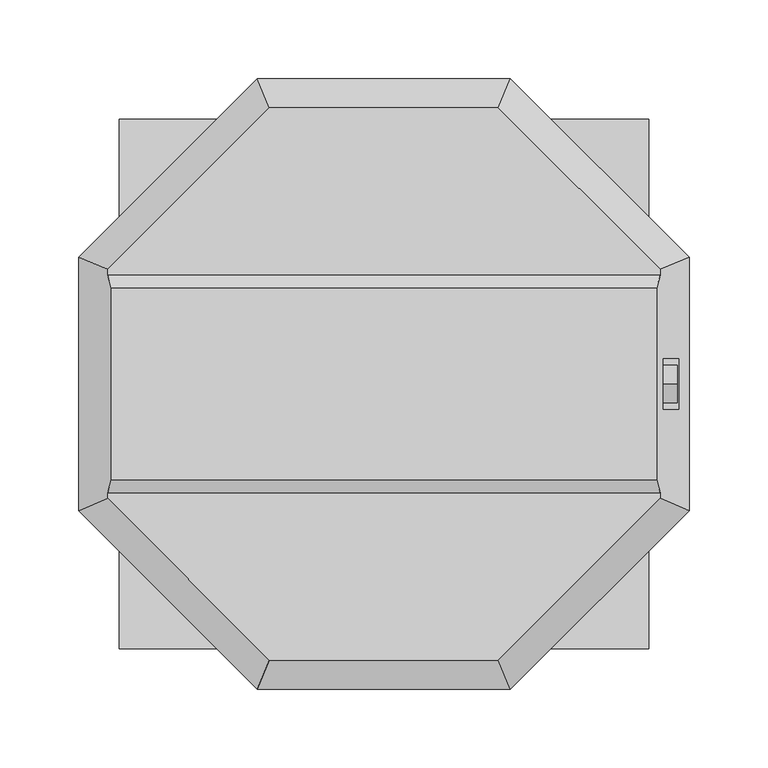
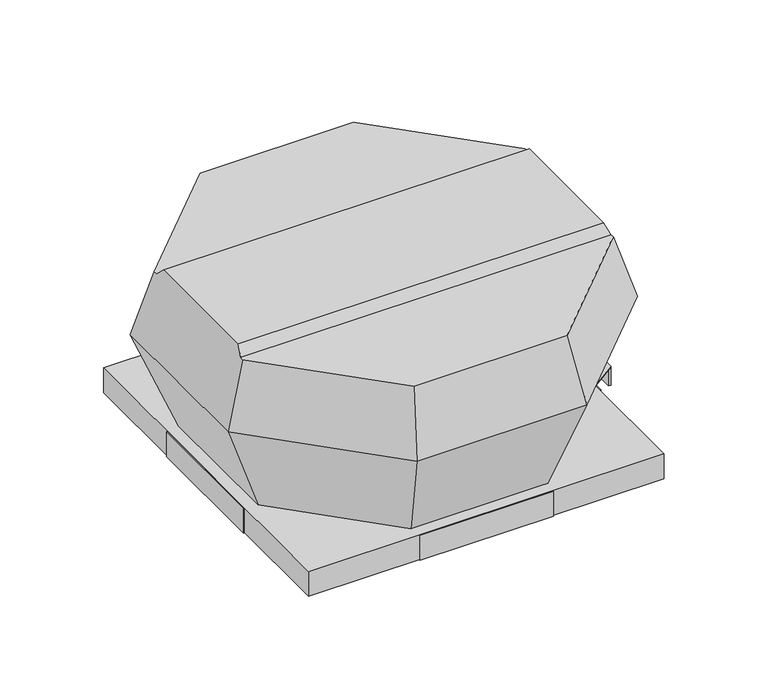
"""IFC4 building model written with IfcOpenShell, lengths in millimetres: unitary equipment geometry, VE-Wentylator-ParaForma-Harmann-VIVER_PS-Wywiewny : 4-250/600S."""

import ifcopenshell
import ifcopenshell.guid

model = None  # the IFC model being written
_history = None  # IfcOwnerHistory: only IFC2X3 demands one
_inside = {}  # id of a spatial element -> (the spatial element, [elements in it])
_under = {}  # id of a project, library or spatial element -> (it, [spatial elements below it])
_declared = {}  # id of a project -> (the project, [libraries it declares])
_typed = {}  # id of a type object -> (the type object, [elements of that type])
_made_of = {}  # id of a material, layer set ... -> (it, [elements and type objects made of it])


def new_model(schema):
    """Start an empty IFC model of exactly this schema.

    Asked for "IFC4X3", IfcOpenShell would pick the latest addendum, in which some entities
    have other attributes; the version numbers below select the first issue.
    IFC2X3 requires an IfcOwnerHistory on every rooted entity: one is made here for all.
    """
    global model, _history
    if schema == "IFC4X3":
        model = ifcopenshell.file(schema_version=(4, 3, 0, 0))
    else:
        model = ifcopenshell.file(schema=schema)
    _inside.clear()
    _under.clear()
    _declared.clear()
    _typed.clear()
    _made_of.clear()
    _history = None
    if model.schema == "IFC2X3":
        org = make("IfcOrganization", Name="unknown")
        user = make(
            "IfcPersonAndOrganization",
            ThePerson=make("IfcPerson", FamilyName="unknown"),
            TheOrganization=org,
        )
        app = make(
            "IfcApplication",
            ApplicationDeveloper=org,
            Version="unknown",
            ApplicationFullName="unknown",
            ApplicationIdentifier="unknown",
        )
        _history = make(
            "IfcOwnerHistory",
            OwningUser=user,
            OwningApplication=app,
            ChangeAction="ADDED",
            CreationDate=0,
        )
    return model


def make(cls, **values):
    """One entity of the class cls with the attributes given. An attribute that is None is left unset."""
    return model.create_entity(
        cls, **{name: value for name, value in values.items() if value is not None}
    )


def rooted(cls, **values):
    """An entity with a GlobalId (a new one), such as an element, a storey or a relation."""
    return make(cls, GlobalId=ifcopenshell.guid.new(), OwnerHistory=_history, **values)


def si_unit(unit_type, name, prefix=None):
    """IfcSIUnit, for example si_unit("LENGTHUNIT", "METRE", prefix="MILLI")."""
    return make("IfcSIUnit", UnitType=unit_type, Prefix=prefix, Name=name)


def assignment(units):
    """IfcUnitAssignment: the units of a project."""
    return None if units is None else make("IfcUnitAssignment", Units=units)


def point(xyz):
    """IfcCartesianPoint."""
    return None if xyz is None else make("IfcCartesianPoint", Coordinates=xyz)


def direction(xyz):
    """IfcDirection."""
    return None if xyz is None else make("IfcDirection", DirectionRatios=xyz)


def frame(location, z_axis=None, x_axis=None):
    """IfcAxis2Placement3D, a coordinate frame: its origin and axes. An axis left out is left unset."""
    return make(
        "IfcAxis2Placement3D",
        Location=point(location),
        Axis=direction(z_axis),
        RefDirection=direction(x_axis),
    )


def frame_2d(location, x_axis=None):
    """IfcAxis2Placement2D, a coordinate frame in the plane: its origin and x axis."""
    return make(
        "IfcAxis2Placement2D", Location=point(location), RefDirection=direction(x_axis)
    )


def origin():
    """The frame at (0, 0, 0) with its axes left unset."""
    return frame((0.0, 0.0, 0.0))


def place(relative_to, where):
    """IfcLocalPlacement: puts the frame where relative to a parent placement (None: the world)."""
    return make(
        "IfcLocalPlacement", PlacementRelTo=relative_to, RelativePlacement=where
    )


def context(
    kind, dimensions, precision=None, world=None, true_north=None, identifier=None
):
    """IfcGeometricRepresentationContext, for example the 3D "Model" context."""
    return make(
        "IfcGeometricRepresentationContext",
        ContextIdentifier=identifier,
        ContextType=kind,
        CoordinateSpaceDimension=dimensions,
        Precision=precision,
        WorldCoordinateSystem=world,
        TrueNorth=true_north,
    )


def project(units=None, contexts=None):
    """IfcProject with its units and contexts."""
    return rooted(
        "IfcProject",
        Name="project",
        RepresentationContexts=contexts,
        UnitsInContext=assignment(units),
    )


def spatial(cls, under=None, at=None, **own):
    """A site, building, storey or space (cls), placed at a placement, below another one or the project."""
    s = rooted(cls, ObjectPlacement=at, **own)
    if under is not None:
        _under.setdefault(under.id(), (under, []))[1].append(s)
    return s


def circle_curve(where, radius):
    """IfcCircle in the frame where."""
    return make("IfcCircle", Position=where, Radius=radius)


def trimmed(basis, trim1, trim2, sense, master):
    """IfcTrimmedCurve: the piece of a basis curve between two trims."""
    return make(
        "IfcTrimmedCurve",
        BasisCurve=basis,
        Trim1=trim1,
        Trim2=trim2,
        SenseAgreement=sense,
        MasterRepresentation=master,
    )


def segment(curve, same_sense, transition):
    """IfcCompositeCurveSegment."""
    return make(
        "IfcCompositeCurveSegment",
        Transition=transition,
        SameSense=same_sense,
        ParentCurve=curve,
    )


def composite_curve(segments, self_intersect=None):
    """IfcCompositeCurve: segments joined end to end."""
    return make("IfcCompositeCurve", Segments=segments, SelfIntersect=self_intersect)


def outline(outer, holes=None, kind="AREA"):
    """IfcArbitraryClosedProfileDef: a profile drawn as a closed curve; with holes, ...WithVoids."""
    if holes is None:
        return make("IfcArbitraryClosedProfileDef", ProfileType=kind, OuterCurve=outer)
    return make(
        "IfcArbitraryProfileDefWithVoids",
        ProfileType=kind,
        OuterCurve=outer,
        InnerCurves=holes,
    )


def extrude(swept, where, along, depth):
    """IfcExtrudedAreaSolid: the profile swept, set in the frame where, extruded along a direction by depth."""
    return make(
        "IfcExtrudedAreaSolid",
        SweptArea=swept,
        Position=where,
        ExtrudedDirection=direction(along),
        Depth=depth,
    )


def faces_of(points, faces, orient=None, outer=None):
    """IfcFace entities. A face is a list of loops; a loop is a list of indices into points, from 0.

    orient and outer hold one flag for each loop. By default every Orientation is true, the
    first loop of a face is its IfcFaceOuterBound and the others are IfcFaceBound.
    """
    made = []
    for i, loops in enumerate(faces):
        bounds = []
        for j, loop in enumerate(loops):
            is_outer = j == 0 if outer is None else outer[i][j]
            bounds.append(
                make(
                    "IfcFaceOuterBound" if is_outer else "IfcFaceBound",
                    Bound=make("IfcPolyLoop", Polygon=[points[k] for k in loop]),
                    Orientation=True if orient is None else orient[i][j],
                )
            )
        made.append(make("IfcFace", Bounds=bounds))
    return made


def faceted_brep(points, faces, orient=None, outer=None, voids=None):
    """IfcFacetedBrep: a solid bounded by flat faces; with voids (closed shells), ...WithVoids."""
    shared = [point(p) for p in points]
    hull = make("IfcClosedShell", CfsFaces=faces_of(shared, faces, orient, outer))
    if voids is None:
        return make("IfcFacetedBrep", Outer=hull)
    return make(
        "IfcFacetedBrepWithVoids",
        Outer=hull,
        Voids=[
            make(cls, CfsFaces=faces_of(shared, fs, o, b)) for cls, fs, o, b in voids
        ],
    )


def shape(context_of_items, identifier, shape_type, items):
    """IfcShapeRepresentation: the items that make up one representation, for example the "Body"."""
    return make(
        "IfcShapeRepresentation",
        ContextOfItems=context_of_items,
        RepresentationIdentifier=identifier,
        RepresentationType=shape_type,
        Items=items,
    )


def source(mapping_origin, context_of_items, identifier, shape_type, items):
    """IfcRepresentationMap: a shape defined once, which mapped items show again and again."""
    return make(
        "IfcRepresentationMap",
        MappingOrigin=mapping_origin,
        MappedRepresentation=shape(context_of_items, identifier, shape_type, items),
    )


def transform(
    local_origin,
    x_axis=None,
    y_axis=None,
    z_axis=None,
    scale=None,
    scale2=None,
    scale3=None,
    uniform=True,
):
    """IfcCartesianTransformationOperator3D, or its non-uniform kind. x_axis, y_axis, z_axis: its Axis1, 2, 3."""
    if uniform:
        return make(
            "IfcCartesianTransformationOperator3D",
            Axis1=direction(x_axis),
            Axis2=direction(y_axis),
            LocalOrigin=point(local_origin),
            Scale=scale,
            Axis3=direction(z_axis),
        )
    return make(
        "IfcCartesianTransformationOperator3DnonUniform",
        Axis1=direction(x_axis),
        Axis2=direction(y_axis),
        LocalOrigin=point(local_origin),
        Scale=scale,
        Axis3=direction(z_axis),
        Scale2=scale2,
        Scale3=scale3,
    )


def mapped(mapping_source, mapping_target):
    """IfcMappedItem: shows the shape of a source again, moved by a transform."""
    return make(
        "IfcMappedItem", MappingSource=mapping_source, MappingTarget=mapping_target
    )


def made_of(thing, what):
    """Note that an element or type object is made of a material, layer set ...; save() writes the relation."""
    if what is not None:
        _made_of.setdefault(what.id(), (what, []))[1].append(thing)
    return thing


def element(
    cls,
    number,
    at=None,
    inside=None,
    cuts=None,
    type_object=None,
    material=None,
    context=None,
    identifier="Body",
    shape_type=None,
    held_by="IfcProductDefinitionShape",
    body=None,
    shapes=None,
    **own,
):
    """One element of the class cls, such as IfcWall. Its Tag is "e" and its number.

    at: its placement. inside: the storey or other place that contains it. cuts: it is an
    opening in that element (IfcRelVoidsElement). A single representation is given by context,
    identifier, shape_type and body (its items); several are given by shapes. held_by: the class
    of the entity that holds the representations. save() writes the other relations.
    """
    e = rooted(cls, Tag="e%d" % number, ObjectPlacement=at, **own)
    if body is not None:
        shapes = [shape(context, identifier, shape_type, body)]
    if shapes is not None:
        e.Representation = make(held_by, Representations=shapes)
    if inside is not None:
        _inside.setdefault(inside.id(), (inside, []))[1].append(e)
    if cuts is not None:
        rooted(
            "IfcRelVoidsElement", RelatingBuildingElement=cuts, RelatedOpeningElement=e
        )
    if type_object is not None:
        _typed.setdefault(type_object.id(), (type_object, []))[1].append(e)
    return made_of(e, material)


def aggregate(whole, parts):
    """IfcRelAggregates: a whole, such as a stair, and the parts it consists of."""
    return rooted("IfcRelAggregates", RelatingObject=whole, RelatedObjects=parts)


def save(model, path):
    """Write the relations noted so far, then the file.

    IfcRelAggregates (storeys below a building ...), IfcRelContainedInSpatialStructure (elements
    in a storey), IfcRelDefinesByType, IfcRelAssociatesMaterial and IfcRelDeclares: one each for
    every whole, place, type object, material and project.
    """
    for whole, parts in _under.values():
        aggregate(whole, parts)
    for where, things in _inside.values():
        rooted(
            "IfcRelContainedInSpatialStructure",
            RelatedElements=things,
            RelatingStructure=where,
        )
    for kind, things in _typed.values():
        rooted("IfcRelDefinesByType", RelatedObjects=things, RelatingType=kind)
    for what, things in _made_of.values():
        rooted("IfcRelAssociatesMaterial", RelatedObjects=things, RelatingMaterial=what)
    for by, libraries in _declared.values():
        rooted("IfcRelDeclares", RelatingContext=by, RelatedDefinitions=libraries)
    model.write(path)


def unitary_equipment_a3701f98(model_context):
    return source(origin(), model_context, "Body", "SolidModel", [
        faceted_brep([(173.5597397, -61.0, 166.2), (173.5597397, 61.0, 166.2), (-173.5597397, 61.0, 166.2), (-173.5597397, -61.0, 166.2), (175.9961687, 69.1, 158.1), (-175.9961687, 69.1, 158.1), (175.9961687, -69.1, 158.1), (-175.9961687, -69.1, 158.1), (72.9, -175.9961687, 158.1), (175.9961687, -72.9, 158.1), (-175.9961687, -72.9, 158.1), (-72.9, -175.9961687, 158.1), (175.9961687, 72.9, 158.1), (72.9, 175.9961687, 158.1), (-72.9, 175.9961687, 158.1), (-175.9961687, 72.9, 158.1), (80.55, -194.4649024, 96.7), (194.4649024, -80.55, 96.7), (194.4649024, 80.55, 96.7), (187.7872821, -16.0, 118.9), (177.8310103, -16.0, 152.0), (177.8310103, 16.0, 152.0), (187.7872821, 16.0, 118.9), (80.55, 194.4649024, 96.7), (-80.55, 194.4649024, 96.7), (-194.4649024, 80.55, 96.7), (-194.4649024, -80.55, 96.7), (-80.55, -194.4649024, 96.7), (176.8, -16.0, 118.9), (176.8, 16.0, 118.9), (176.8, 16.0, 152.0), (176.8, -16.0, 152.0), (65.1, -157.1653029, 1.0), (-65.1, -157.1653029, 1.0), (-157.1653029, -65.1, 1.0), (-157.1653029, 65.1, 1.0), (-65.1, 157.1653029, 1.0), (65.1, 157.1653029, 1.0), (157.1653029, 65.1, 1.0), (157.1653029, -65.1, 1.0)], [[[0, 1, 2, 3]], [[1, 4, 5, 2]], [[6, 0, 3, 7]], [[8, 9, 6, 7, 10, 11]], [[12, 13, 14, 15, 5, 4]], [[9, 8, 16, 17]], [[9, 17, 18, 12, 4, 1, 0, 6], [19, 20, 21, 22]], [[13, 12, 18, 23]], [[14, 13, 23, 24]], [[15, 14, 24, 25]], [[15, 25, 26, 10, 7, 3, 2, 5]], [[11, 10, 26, 27]], [[8, 11, 27, 16]], [[28, 29, 30, 31]], [[28, 31, 20, 19]], [[31, 30, 21, 20]], [[30, 29, 22, 21]], [[29, 28, 19, 22]], [[32, 33, 34, 35, 36, 37, 38, 39]], [[32, 39, 17, 16]], [[39, 38, 18, 17]], [[38, 37, 23, 18]], [[37, 36, 24, 23]], [[36, 35, 25, 24]], [[35, 34, 26, 25]], [[34, 33, 27, 26]], [[33, 32, 16, 27]]]),
        faceted_brep([(167.6, 167.6, -24.0), (167.6, 167.6, 0.0), (-167.6, 167.6, 0.0), (-167.6, 167.6, -24.0), (168.6, 168.6, 1.0), (168.6, 168.6, -24.0), (-168.6, 168.6, -24.0), (-168.6, 168.6, 1.0), (-167.6, -167.6, 0.0), (-167.6, -167.6, -24.0), (-168.6, -168.6, -24.0), (-168.6, -168.6, 1.0), (167.6, -167.6, 0.0), (167.6, -167.6, -24.0), (168.6, -168.6, -24.0), (168.6, -168.6, 1.0)], [[[0, 1, 2, 3]], [[4, 5, 6, 7]], [[3, 2, 8, 9]], [[7, 6, 10, 11]], [[9, 8, 12, 13]], [[11, 10, 14, 15]], [[13, 12, 1, 0]], [[5, 14, 10, 6], [3, 9, 13, 0]], [[15, 14, 5, 4]], [[7, 11, 15, 4]], [[1, 12, 8, 2]]]),
        extrude(outline(composite_curve([segment(trimmed(circle_curve(frame_2d((0.0, 135.4)), 12.0), [point((0.0, 147.4))], [point((0.0, 123.4))], False, "CARTESIAN"), True, "CONTINUOUS"), segment(trimmed(circle_curve(frame_2d((0.0, 135.4)), 12.0), [point((0.0, 123.4))], [point((0.0, 147.4))], False, "CARTESIAN"), True, "CONTINUOUS")], self_intersect=False)), frame((176.8, 0.0, 0.0), z_axis=(1.0, 0.0, 0.0), x_axis=(0.0, 1.0, 0.0)), (0.0, 0.0, 1.0), 10.0),
        faceted_brep([(-168.6, -63.3, -24.0), (-169.6, -63.3, -24.0), (-169.6, 63.3, -24.0), (-168.6, 63.3, -24.0), (-168.6, -63.3, 1.0), (-168.6, 63.3, 1.0), (-169.6, 63.3, 1.0), (-169.6, -63.3, 1.0)], [[[0, 1, 2, 3]], [[4, 5, 6, 7]], [[1, 0, 4, 7]], [[2, 1, 7, 6]], [[3, 2, 6, 5]], [[0, 3, 5, 4]]]),
        faceted_brep([(169.6, -63.3, -24.0), (168.6, -63.3, -24.0), (168.6, 63.3, -24.0), (169.6, 63.3, -24.0), (169.6, 63.3, 1.0), (168.6, 63.3, 1.0), (168.6, -63.3, 1.0), (169.6, -63.3, 1.0), (169.6, -54.8, 1.0), (193.6, -38.0, 1.0), (193.6, 38.0, 1.0), (169.6, 54.8, 1.0), (169.6, 54.8, 0.0), (169.6, -54.8, 0.0), (193.6, 38.0, 0.0), (191.5, 38.0, 0.0), (191.5, -38.0, 0.0), (193.6, -38.0, 0.0), (193.6, -38.0, -18.0), (193.6, 38.0, -18.0), (191.5, -38.0, -18.0), (191.5, 38.0, -18.0)], [[[0, 1, 2, 3]], [[4, 5, 6, 7, 8, 9, 10, 11]], [[1, 0, 7, 6]], [[2, 1, 6, 5]], [[3, 2, 5, 4]], [[0, 3, 4, 11, 12, 13, 8, 7]], [[12, 14, 15, 16, 17, 13]], [[14, 12, 11, 10]], [[10, 9, 17, 18, 19, 14]], [[13, 17, 9, 8]], [[20, 16, 15, 21]], [[16, 20, 18, 17]], [[21, 15, 14, 19]], [[20, 21, 19, 18]]]),
        faceted_brep([(63.3, 168.6, -24.0), (-63.3, 168.6, -24.0), (-63.3, 169.6, -24.0), (63.3, 169.6, -24.0), (63.3, 168.6, 1.0), (63.3, 169.6, 1.0), (-63.3, 169.6, 1.0), (-63.3, 168.6, 1.0)], [[[0, 1, 2, 3]], [[4, 5, 6, 7]], [[1, 0, 4, 7]], [[2, 1, 7, 6]], [[3, 2, 6, 5]], [[0, 3, 5, 4]]]),
        faceted_brep([(63.3, -169.6, -24.0), (-63.3, -169.6, -24.0), (-63.3, -168.6, -24.0), (63.3, -168.6, -24.0), (63.3, -169.6, 1.0), (63.3, -168.6, 1.0), (-63.3, -168.6, 1.0), (-63.3, -169.6, 1.0)], [[[0, 1, 2, 3]], [[4, 5, 6, 7]], [[1, 0, 4, 7]], [[2, 1, 7, 6]], [[3, 2, 6, 5]], [[0, 3, 5, 4]]]),
    ])


if __name__ == "__main__":
    model = new_model("IFC4")
    model_context = context("Model", 3, world=origin())
    ifc_project = project(units=[si_unit("LENGTHUNIT", "METRE", prefix="MILLI")], contexts=[model_context])
    site = spatial("IfcSite", under=ifc_project)
    building = spatial("IfcBuilding", under=site)
    placement = place(None, origin())
    unitary_equipment_shape = unitary_equipment_a3701f98(model_context)
    element("IfcUnitaryEquipment", 1, ObjectType="VE-Wentylator-ParaForma-Harmann-VIVER_PS-Wywiewny : 4-250/600S", at=placement, inside=building, context=model_context, shape_type="MappedRepresentation", body=[
        mapped(unitary_equipment_shape, transform((0.0, 0.0, 0.0), x_axis=(1.0, 0.0, 0.0), y_axis=(0.0, 1.0, 0.0), z_axis=(0.0, 0.0, 1.0))),
    ])
    save(model, "model.ifc")
